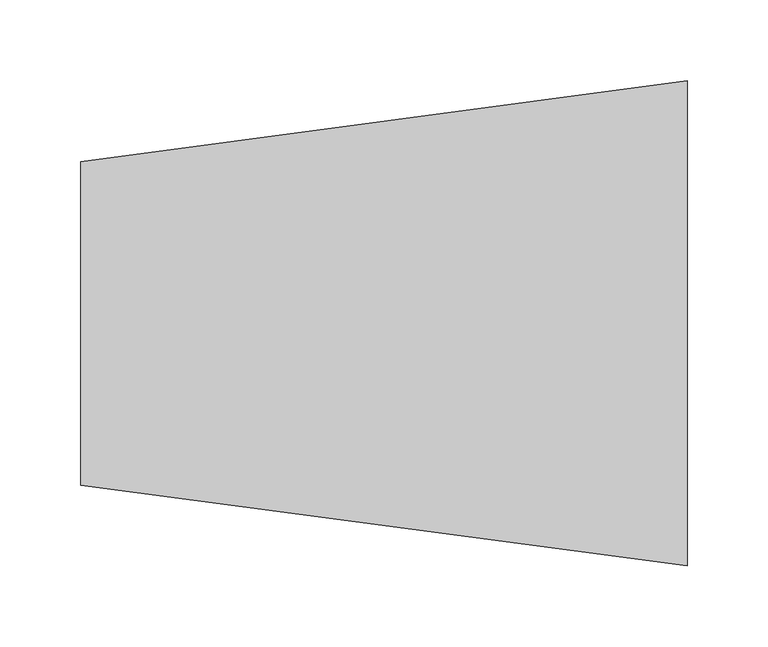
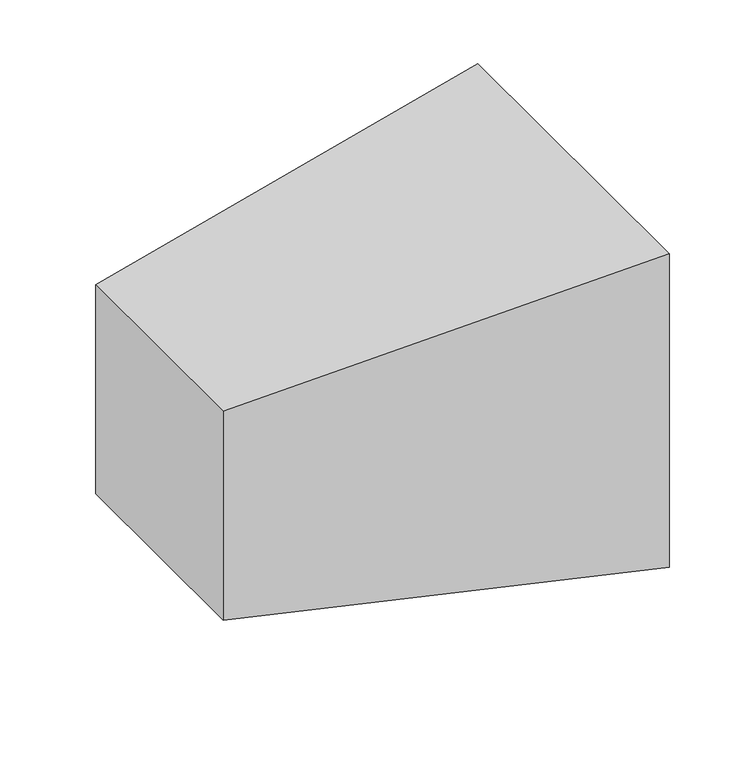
"""IFC4 building model written with IfcOpenShell, lengths in millimetres: duct fitting geometry, BL_ПереходникВоздуховодов_Прямоугольный : BL_ПереходникВоздуховодов_Прямоугольный."""

import ifcopenshell
import ifcopenshell.guid

model = None  # the IFC model being written
_history = None  # IfcOwnerHistory: only IFC2X3 demands one
_inside = {}  # id of a spatial element -> (the spatial element, [elements in it])
_under = {}  # id of a project, library or spatial element -> (it, [spatial elements below it])
_declared = {}  # id of a project -> (the project, [libraries it declares])
_typed = {}  # id of a type object -> (the type object, [elements of that type])
_made_of = {}  # id of a material, layer set ... -> (it, [elements and type objects made of it])


def new_model(schema):
    """Start an empty IFC model of exactly this schema.

    Asked for "IFC4X3", IfcOpenShell would pick the latest addendum, in which some entities
    have other attributes; the version numbers below select the first issue.
    IFC2X3 requires an IfcOwnerHistory on every rooted entity: one is made here for all.
    """
    global model, _history
    if schema == "IFC4X3":
        model = ifcopenshell.file(schema_version=(4, 3, 0, 0))
    else:
        model = ifcopenshell.file(schema=schema)
    _inside.clear()
    _under.clear()
    _declared.clear()
    _typed.clear()
    _made_of.clear()
    _history = None
    if model.schema == "IFC2X3":
        org = make("IfcOrganization", Name="unknown")
        user = make(
            "IfcPersonAndOrganization",
            ThePerson=make("IfcPerson", FamilyName="unknown"),
            TheOrganization=org,
        )
        app = make(
            "IfcApplication",
            ApplicationDeveloper=org,
            Version="unknown",
            ApplicationFullName="unknown",
            ApplicationIdentifier="unknown",
        )
        _history = make(
            "IfcOwnerHistory",
            OwningUser=user,
            OwningApplication=app,
            ChangeAction="ADDED",
            CreationDate=0,
        )
    return model


def make(cls, **values):
    """One entity of the class cls with the attributes given. An attribute that is None is left unset."""
    return model.create_entity(
        cls, **{name: value for name, value in values.items() if value is not None}
    )


def rooted(cls, **values):
    """An entity with a GlobalId (a new one), such as an element, a storey or a relation."""
    return make(cls, GlobalId=ifcopenshell.guid.new(), OwnerHistory=_history, **values)


def si_unit(unit_type, name, prefix=None):
    """IfcSIUnit, for example si_unit("LENGTHUNIT", "METRE", prefix="MILLI")."""
    return make("IfcSIUnit", UnitType=unit_type, Prefix=prefix, Name=name)


def assignment(units):
    """IfcUnitAssignment: the units of a project."""
    return None if units is None else make("IfcUnitAssignment", Units=units)


def point(xyz):
    """IfcCartesianPoint."""
    return None if xyz is None else make("IfcCartesianPoint", Coordinates=xyz)


def direction(xyz):
    """IfcDirection."""
    return None if xyz is None else make("IfcDirection", DirectionRatios=xyz)


def frame(location, z_axis=None, x_axis=None):
    """IfcAxis2Placement3D, a coordinate frame: its origin and axes. An axis left out is left unset."""
    return make(
        "IfcAxis2Placement3D",
        Location=point(location),
        Axis=direction(z_axis),
        RefDirection=direction(x_axis),
    )


def origin():
    """The frame at (0, 0, 0) with its axes left unset."""
    return frame((0.0, 0.0, 0.0))


def place(relative_to, where):
    """IfcLocalPlacement: puts the frame where relative to a parent placement (None: the world)."""
    return make(
        "IfcLocalPlacement", PlacementRelTo=relative_to, RelativePlacement=where
    )


def context(
    kind, dimensions, precision=None, world=None, true_north=None, identifier=None
):
    """IfcGeometricRepresentationContext, for example the 3D "Model" context."""
    return make(
        "IfcGeometricRepresentationContext",
        ContextIdentifier=identifier,
        ContextType=kind,
        CoordinateSpaceDimension=dimensions,
        Precision=precision,
        WorldCoordinateSystem=world,
        TrueNorth=true_north,
    )


def project(units=None, contexts=None):
    """IfcProject with its units and contexts."""
    return rooted(
        "IfcProject",
        Name="project",
        RepresentationContexts=contexts,
        UnitsInContext=assignment(units),
    )


def spatial(cls, under=None, at=None, **own):
    """A site, building, storey or space (cls), placed at a placement, below another one or the project."""
    s = rooted(cls, ObjectPlacement=at, **own)
    if under is not None:
        _under.setdefault(under.id(), (under, []))[1].append(s)
    return s


def faces_of(points, faces, orient=None, outer=None):
    """IfcFace entities. A face is a list of loops; a loop is a list of indices into points, from 0.

    orient and outer hold one flag for each loop. By default every Orientation is true, the
    first loop of a face is its IfcFaceOuterBound and the others are IfcFaceBound.
    """
    made = []
    for i, loops in enumerate(faces):
        bounds = []
        for j, loop in enumerate(loops):
            is_outer = j == 0 if outer is None else outer[i][j]
            bounds.append(
                make(
                    "IfcFaceOuterBound" if is_outer else "IfcFaceBound",
                    Bound=make("IfcPolyLoop", Polygon=[points[k] for k in loop]),
                    Orientation=True if orient is None else orient[i][j],
                )
            )
        made.append(make("IfcFace", Bounds=bounds))
    return made


def faceted_brep(points, faces, orient=None, outer=None, voids=None):
    """IfcFacetedBrep: a solid bounded by flat faces; with voids (closed shells), ...WithVoids."""
    shared = [point(p) for p in points]
    hull = make("IfcClosedShell", CfsFaces=faces_of(shared, faces, orient, outer))
    if voids is None:
        return make("IfcFacetedBrep", Outer=hull)
    return make(
        "IfcFacetedBrepWithVoids",
        Outer=hull,
        Voids=[
            make(cls, CfsFaces=faces_of(shared, fs, o, b)) for cls, fs, o, b in voids
        ],
    )


def shape(context_of_items, identifier, shape_type, items):
    """IfcShapeRepresentation: the items that make up one representation, for example the "Body"."""
    return make(
        "IfcShapeRepresentation",
        ContextOfItems=context_of_items,
        RepresentationIdentifier=identifier,
        RepresentationType=shape_type,
        Items=items,
    )


def source(mapping_origin, context_of_items, identifier, shape_type, items):
    """IfcRepresentationMap: a shape defined once, which mapped items show again and again."""
    return make(
        "IfcRepresentationMap",
        MappingOrigin=mapping_origin,
        MappedRepresentation=shape(context_of_items, identifier, shape_type, items),
    )


def transform(
    local_origin,
    x_axis=None,
    y_axis=None,
    z_axis=None,
    scale=None,
    scale2=None,
    scale3=None,
    uniform=True,
):
    """IfcCartesianTransformationOperator3D, or its non-uniform kind. x_axis, y_axis, z_axis: its Axis1, 2, 3."""
    if uniform:
        return make(
            "IfcCartesianTransformationOperator3D",
            Axis1=direction(x_axis),
            Axis2=direction(y_axis),
            LocalOrigin=point(local_origin),
            Scale=scale,
            Axis3=direction(z_axis),
        )
    return make(
        "IfcCartesianTransformationOperator3DnonUniform",
        Axis1=direction(x_axis),
        Axis2=direction(y_axis),
        LocalOrigin=point(local_origin),
        Scale=scale,
        Axis3=direction(z_axis),
        Scale2=scale2,
        Scale3=scale3,
    )


def mapped(mapping_source, mapping_target):
    """IfcMappedItem: shows the shape of a source again, moved by a transform."""
    return make(
        "IfcMappedItem", MappingSource=mapping_source, MappingTarget=mapping_target
    )


def made_of(thing, what):
    """Note that an element or type object is made of a material, layer set ...; save() writes the relation."""
    if what is not None:
        _made_of.setdefault(what.id(), (what, []))[1].append(thing)
    return thing


def element(
    cls,
    number,
    at=None,
    inside=None,
    cuts=None,
    type_object=None,
    material=None,
    context=None,
    identifier="Body",
    shape_type=None,
    held_by="IfcProductDefinitionShape",
    body=None,
    shapes=None,
    **own,
):
    """One element of the class cls, such as IfcWall. Its Tag is "e" and its number.

    at: its placement. inside: the storey or other place that contains it. cuts: it is an
    opening in that element (IfcRelVoidsElement). A single representation is given by context,
    identifier, shape_type and body (its items); several are given by shapes. held_by: the class
    of the entity that holds the representations. save() writes the other relations.
    """
    e = rooted(cls, Tag="e%d" % number, ObjectPlacement=at, **own)
    if body is not None:
        shapes = [shape(context, identifier, shape_type, body)]
    if shapes is not None:
        e.Representation = make(held_by, Representations=shapes)
    if inside is not None:
        _inside.setdefault(inside.id(), (inside, []))[1].append(e)
    if cuts is not None:
        rooted(
            "IfcRelVoidsElement", RelatingBuildingElement=cuts, RelatedOpeningElement=e
        )
    if type_object is not None:
        _typed.setdefault(type_object.id(), (type_object, []))[1].append(e)
    return made_of(e, material)


def aggregate(whole, parts):
    """IfcRelAggregates: a whole, such as a stair, and the parts it consists of."""
    return rooted("IfcRelAggregates", RelatingObject=whole, RelatedObjects=parts)


def save(model, path):
    """Write the relations noted so far, then the file.

    IfcRelAggregates (storeys below a building ...), IfcRelContainedInSpatialStructure (elements
    in a storey), IfcRelDefinesByType, IfcRelAssociatesMaterial and IfcRelDeclares: one each for
    every whole, place, type object, material and project.
    """
    for whole, parts in _under.values():
        aggregate(whole, parts)
    for where, things in _inside.values():
        rooted(
            "IfcRelContainedInSpatialStructure",
            RelatedElements=things,
            RelatingStructure=where,
        )
    for kind, things in _typed.values():
        rooted("IfcRelDefinesByType", RelatedObjects=things, RelatingType=kind)
    for what, things in _made_of.values():
        rooted("IfcRelAssociatesMaterial", RelatedObjects=things, RelatingMaterial=what)
    for by, libraries in _declared.values():
        rooted("IfcRelDeclares", RelatingContext=by, RelatedDefinitions=libraries)
    model.write(path)


def duct_fitting_96916f98(model_context):
    return source(origin(), model_context, "Body", "Brep", [
        faceted_brep([(375.0, -150.0, 150.0), (375.0, -150.0, -150.0), (375.0, 150.0, -150.0), (375.0, 150.0, 150.0), (0.0, -100.0, 100.0), (0.0, 100.0, 100.0), (0.0, 100.0, -100.0), (0.0, -100.0, -100.0)], [[[0, 1, 2, 3]], [[4, 5, 6, 7]], [[4, 7, 1, 0]], [[7, 6, 2, 1]], [[6, 5, 3, 2]], [[5, 4, 0, 3]]]),
    ])


if __name__ == "__main__":
    model = new_model("IFC4")
    model_context = context("Model", 3, world=origin())
    ifc_project = project(units=[si_unit("LENGTHUNIT", "METRE", prefix="MILLI")], contexts=[model_context])
    site = spatial("IfcSite", under=ifc_project)
    building = spatial("IfcBuilding", under=site)
    placement = place(None, origin())
    duct_fitting_shape = duct_fitting_96916f98(model_context)
    element("IfcDuctFitting", 1, ObjectType="BL_ПереходникВоздуховодов_Прямоугольный : BL_ПереходникВоздуховодов_Прямоугольный", at=placement, inside=building, context=model_context, shape_type="MappedRepresentation", body=[
        mapped(duct_fitting_shape, transform((0.0, 0.0, 0.0), x_axis=(1.0, 0.0, 0.0), y_axis=(0.0, 1.0, 0.0), z_axis=(0.0, 0.0, 1.0))),
    ])
    save(model, "model.ifc")
